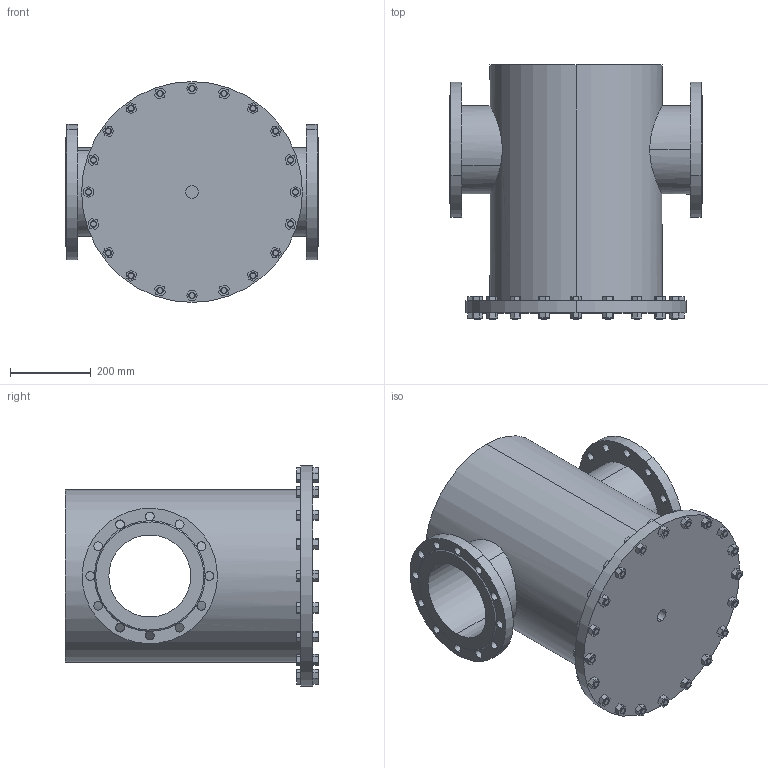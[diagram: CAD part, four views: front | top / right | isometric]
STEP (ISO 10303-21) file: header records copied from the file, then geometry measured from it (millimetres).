
FILE_DESCRIPTION (( 'STEP AP214' ), '1' );
FILE_NAME ('DN200 PN16.STEP', '2025-08-08T14:02:44', ( '' ), ( '' ), 'SwSTEP 2.0', 'SolidWorks 2023', '' );
FILE_SCHEMA (( 'AUTOMOTIVE_DESIGN' ));
Length unit declared in the file: millimetre
Products named in the file (1): DN200 PN16
Bounding box: 626 x 629 x 547 mm (x, y, z)
Volume: 79853522.3 mm3; surface area: 2092681.1 mm2
Topology: 1 solids, 1 shells, 464 faces, 1208 edges, 792 vertices
Faces by surface type: plane 312, cylinder 108, cone 44
Entity records: 16043 total; most frequent: CARTESIAN_POINT 3171, ORIENTED_EDGE 2416, DIRECTION 2410, EDGE_CURVE 1208, LINE 872, VECTOR 872, VERTEX_POINT 792, AXIS2_PLACEMENT_3D 769
